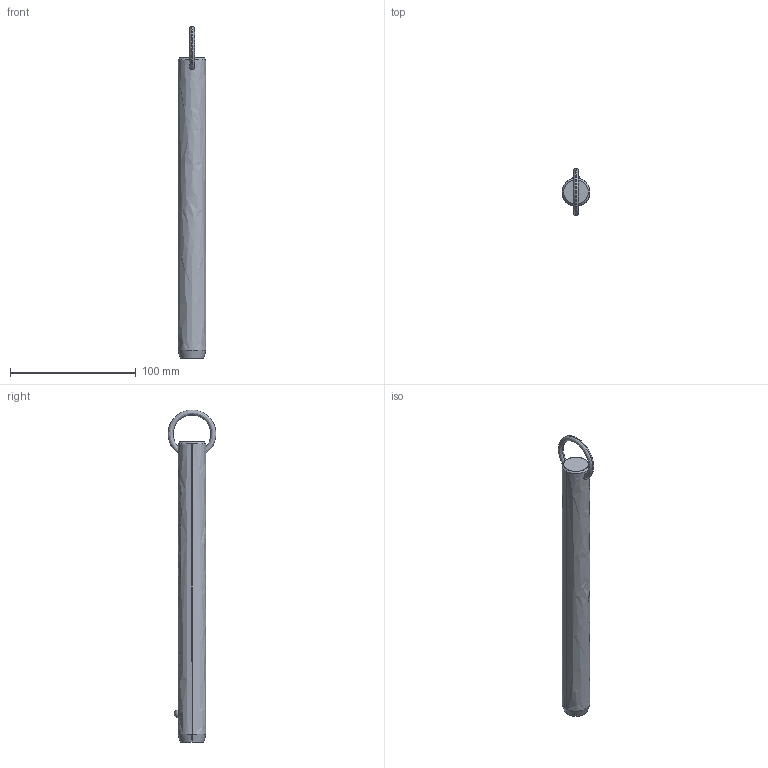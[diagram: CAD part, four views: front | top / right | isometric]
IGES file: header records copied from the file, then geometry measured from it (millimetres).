
Start section: SolidWorks IGES file using analytic representation for surfaces
Global section: file name: C:\Users\liam_\OneDrive\Documents\WORK\Work for WixRoyd\Job Files\J-00019 - Matt Davis CAD Checking\04. CAD Drawings\automotion20190605\P1250.2_v2\P1250.2_v2_20190729_IGES\P1250.087-790.igs; native system: SolidWorks 2017; preprocessor: SolidWorks 2017; author: liam_; date: 190730.173214; units: millimetre
Bounding box: 22.2 x 38.09 x 264.09 mm (x, y, z)
Surface area: 18291.5 mm2 (no closed solid volume)
Topology: 0 solids, 0 shells, 12 faces, 302 edges, 300 vertices
Faces by surface type: revolution 8, bspline 4
